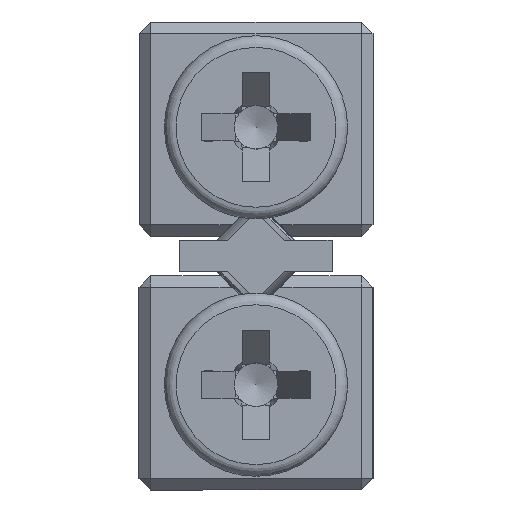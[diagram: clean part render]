
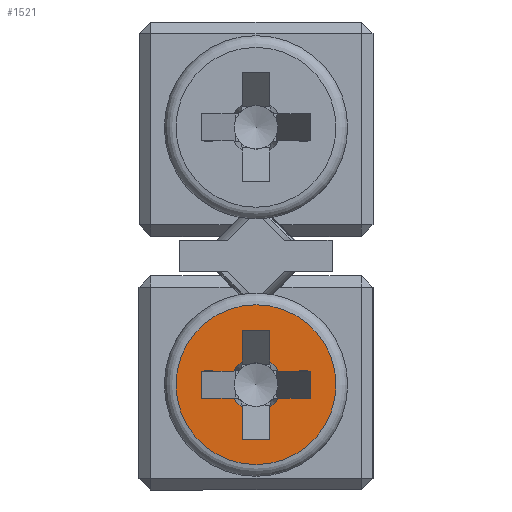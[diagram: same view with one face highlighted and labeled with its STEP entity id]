
A CAD part, left-side view. The second image highlights one B-rep face of the part: STEP entity #1521.
In plain terms, the highlighted planar face has unit normal (-1, 0, 0).
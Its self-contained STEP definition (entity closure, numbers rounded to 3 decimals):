
#145 = PLANE ( 'NONE',  #15974 ) ;
#158 = ORIENTED_EDGE ( 'NONE', *, *, #17880, .F. ) ;
#250 = CARTESIAN_POINT ( 'NONE',  ( -76.5, 0., 2.7 ) ) ;
#584 = CARTESIAN_POINT ( 'NONE',  ( -76.5, 1.4, 2.35 ) ) ;
#730 = EDGE_CURVE ( 'NONE', #17868, #22964, #11448, .T. ) ;
#819 = DIRECTION ( 'NONE',  ( 0., 0., 1. ) ) ;
#893 = VERTEX_POINT ( 'NONE', #19486 ) ;
#996 = DIRECTION ( 'NONE',  ( 0., 0., -1. ) ) ;
#999 = DIRECTION ( 'NONE',  ( -1., 0., 0. ) ) ;
#1054 = CARTESIAN_POINT ( 'NONE',  ( -76.5, 0., 0.65 ) ) ;
#1391 = VECTOR ( 'NONE', #14185, 1000. ) ;
#1521 = ADVANCED_FACE ( 'NONE', ( #4272, #17974 ), #145, .F. ) ;
#1751 = ORIENTED_EDGE ( 'NONE', *, *, #10072, .F. ) ;
#2018 = LINE ( 'NONE', #12633, #10843 ) ;
#2025 = ORIENTED_EDGE ( 'NONE', *, *, #18188, .T. ) ;
#2148 = DIRECTION ( 'NONE',  ( 0., 0., -1. ) ) ;
#2659 = LINE ( 'NONE', #20344, #4184 ) ;
#2673 = DIRECTION ( 'NONE',  ( 0., -1., 0. ) ) ;
#2816 = LINE ( 'NONE', #24349, #9938 ) ;
#3117 = CARTESIAN_POINT ( 'NONE',  ( -76.5, 0.35, 2.119 ) ) ;
#3600 = ORIENTED_EDGE ( 'NONE', *, *, #12573, .T. ) ;
#3763 = DIRECTION ( 'NONE',  ( 0., 0., -1. ) ) ;
#4001 = DIRECTION ( 'NONE',  ( 0., 0., -1. ) ) ;
#4111 = CARTESIAN_POINT ( 'NONE',  ( -76.5, -0.35, 2.119 ) ) ;
#4184 = VECTOR ( 'NONE', #22381, 1000. ) ;
#4272 = FACE_OUTER_BOUND ( 'NONE', #5533, .T. ) ;
#4337 = ORIENTED_EDGE ( 'NONE', *, *, #9826, .F. ) ;
#4650 = CARTESIAN_POINT ( 'NONE',  ( -76.5, -1.4, 2.35 ) ) ;
#4817 = CARTESIAN_POINT ( 'NONE',  ( -76.5, 1.4, 3.05 ) ) ;
#5165 = AXIS2_PLACEMENT_3D ( 'NONE', #14615, #999, #21557 ) ;
#5418 = DIRECTION ( 'NONE',  ( 0., -1., 0. ) ) ;
#5533 = EDGE_LOOP ( 'NONE', ( #14991 ) ) ;
#5567 = CARTESIAN_POINT ( 'NONE',  ( -76.5, -0.35, 4.1 ) ) ;
#5760 = EDGE_CURVE ( 'NONE', #10460, #10460, #13188, .T. ) ;
#6085 = CARTESIAN_POINT ( 'NONE',  ( -76.5, 0.35, 4.1 ) ) ;
#6288 = CARTESIAN_POINT ( 'NONE',  ( -76.5, -0.35, 4.1 ) ) ;
#6311 = ORIENTED_EDGE ( 'NONE', *, *, #13399, .T. ) ;
#6323 = CARTESIAN_POINT ( 'NONE',  ( -76.5, -0.35, 4.1 ) ) ;
#6555 = VECTOR ( 'NONE', #4001, 1000. ) ;
#6894 = LINE ( 'NONE', #7389, #12291 ) ;
#7306 = EDGE_CURVE ( 'NONE', #9328, #22297, #15908, .T. ) ;
#7389 = CARTESIAN_POINT ( 'NONE',  ( -76.5, 0.35, 1.3 ) ) ;
#8104 = DIRECTION ( 'NONE',  ( 0., 0., 1. ) ) ;
#8404 = ORIENTED_EDGE ( 'NONE', *, *, #7306, .F. ) ;
#8994 = EDGE_CURVE ( 'NONE', #893, #23433, #6894, .T. ) ;
#9271 = ORIENTED_EDGE ( 'NONE', *, *, #17099, .F. ) ;
#9328 = VERTEX_POINT ( 'NONE', #16617 ) ;
#9405 = VECTOR ( 'NONE', #2673, 1000. ) ;
#9648 = CARTESIAN_POINT ( 'NONE',  ( -76.5, -0.35, 4.1 ) ) ;
#9765 = CARTESIAN_POINT ( 'NONE',  ( -76.5, 1.4, 3.05 ) ) ;
#9826 = EDGE_CURVE ( 'NONE', #12225, #11922, #24965, .T. ) ;
#9899 = EDGE_CURVE ( 'NONE', #20206, #11922, #21414, .T. ) ;
#9938 = VECTOR ( 'NONE', #12818, 1000. ) ;
#9970 = CARTESIAN_POINT ( 'NONE',  ( -76.5, 1.4, 3.05 ) ) ;
#10072 = EDGE_CURVE ( 'NONE', #13226, #15351, #21931, .T. ) ;
#10268 = CARTESIAN_POINT ( 'NONE',  ( -76.5, 0.35, 3.281 ) ) ;
#10460 = VERTEX_POINT ( 'NONE', #1054 ) ;
#10843 = VECTOR ( 'NONE', #12264, 1000. ) ;
#11077 = VERTEX_POINT ( 'NONE', #4650 ) ;
#11410 = CARTESIAN_POINT ( 'NONE',  ( -76.5, -0.581, 2.35 ) ) ;
#11448 = LINE ( 'NONE', #9648, #6555 ) ;
#11481 = CIRCLE ( 'NONE', #13086, 0.678 ) ;
#11482 = EDGE_LOOP ( 'NONE', ( #158, #24808, #9271, #18492, #15759, #3600, #22708, #18783, #4337, #6311, #1751, #2025, #8404, #19380, #12544, #15530 ) ) ;
#11871 = CARTESIAN_POINT ( 'NONE',  ( -76.5, -1.4, 2.35 ) ) ;
#11922 = VERTEX_POINT ( 'NONE', #24357 ) ;
#12225 = VERTEX_POINT ( 'NONE', #10268 ) ;
#12264 = DIRECTION ( 'NONE',  ( 0., -1., 0. ) ) ;
#12291 = VECTOR ( 'NONE', #17018, 1000. ) ;
#12401 = VECTOR ( 'NONE', #17623, 1000. ) ;
#12544 = ORIENTED_EDGE ( 'NONE', *, *, #12984, .F. ) ;
#12573 = EDGE_CURVE ( 'NONE', #24522, #19206, #2659, .T. ) ;
#12633 = CARTESIAN_POINT ( 'NONE',  ( -76.5, 0.35, 1.3 ) ) ;
#12805 = CARTESIAN_POINT ( 'NONE',  ( -76.5, 0., 2.7 ) ) ;
#12818 = DIRECTION ( 'NONE',  ( 0., 0., 1. ) ) ;
#12851 = EDGE_CURVE ( 'NONE', #11077, #18643, #23643, .T. ) ;
#12984 = EDGE_CURVE ( 'NONE', #11077, #18248, #22092, .T. ) ;
#13086 = AXIS2_PLACEMENT_3D ( 'NONE', #250, #18337, #8104 ) ;
#13188 = CIRCLE ( 'NONE', #23809, 2.05 ) ;
#13226 = VERTEX_POINT ( 'NONE', #5567 ) ;
#13399 = EDGE_CURVE ( 'NONE', #12225, #15351, #2816, .T. ) ;
#13488 = CARTESIAN_POINT ( 'NONE',  ( -76.5, -0.35, 3.281 ) ) ;
#13932 = AXIS2_PLACEMENT_3D ( 'NONE', #14658, #22444, #16701 ) ;
#14172 = CARTESIAN_POINT ( 'NONE',  ( -76.5, 0., 2.7 ) ) ;
#14185 = DIRECTION ( 'NONE',  ( 0., 0., -1. ) ) ;
#14430 = CARTESIAN_POINT ( 'NONE',  ( -76.5, -1.4, 2.35 ) ) ;
#14615 = CARTESIAN_POINT ( 'NONE',  ( -76.5, 0., 2.7 ) ) ;
#14658 = CARTESIAN_POINT ( 'NONE',  ( -76.5, 0., 2.7 ) ) ;
#14673 = AXIS2_PLACEMENT_3D ( 'NONE', #14172, #24284, #21967 ) ;
#14740 = VECTOR ( 'NONE', #2148, 1000. ) ;
#14991 = ORIENTED_EDGE ( 'NONE', *, *, #5760, .T. ) ;
#15351 = VERTEX_POINT ( 'NONE', #6085 ) ;
#15530 = ORIENTED_EDGE ( 'NONE', *, *, #12851, .T. ) ;
#15759 = ORIENTED_EDGE ( 'NONE', *, *, #23773, .F. ) ;
#15908 = CIRCLE ( 'NONE', #14673, 0.678 ) ;
#15974 = AXIS2_PLACEMENT_3D ( 'NONE', #23492, #17471, #3763 ) ;
#16617 = CARTESIAN_POINT ( 'NONE',  ( -76.5, -0.581, 3.05 ) ) ;
#16701 = DIRECTION ( 'NONE',  ( 0., 0., 1. ) ) ;
#16763 = CARTESIAN_POINT ( 'NONE',  ( -76.5, 1.4, 3.05 ) ) ;
#17018 = DIRECTION ( 'NONE',  ( 0., 0., 1. ) ) ;
#17099 = EDGE_CURVE ( 'NONE', #893, #22964, #2018, .T. ) ;
#17210 = EDGE_CURVE ( 'NONE', #20206, #19206, #23920, .T. ) ;
#17351 = CARTESIAN_POINT ( 'NONE',  ( -76.5, 0.581, 2.35 ) ) ;
#17471 = DIRECTION ( 'NONE',  ( 1., 0., 0. ) ) ;
#17623 = DIRECTION ( 'NONE',  ( 0., 1., 0. ) ) ;
#17868 = VERTEX_POINT ( 'NONE', #4111 ) ;
#17880 = EDGE_CURVE ( 'NONE', #17868, #18643, #11481, .T. ) ;
#17974 = FACE_BOUND ( 'NONE', #11482, .T. ) ;
#18188 = EDGE_CURVE ( 'NONE', #13226, #22297, #22138, .T. ) ;
#18248 = VERTEX_POINT ( 'NONE', #20097 ) ;
#18311 = EDGE_CURVE ( 'NONE', #9328, #18248, #22508, .T. ) ;
#18337 = DIRECTION ( 'NONE',  ( -1., 0., 0. ) ) ;
#18492 = ORIENTED_EDGE ( 'NONE', *, *, #8994, .T. ) ;
#18643 = VERTEX_POINT ( 'NONE', #11410 ) ;
#18783 = ORIENTED_EDGE ( 'NONE', *, *, #9899, .T. ) ;
#19206 = VERTEX_POINT ( 'NONE', #584 ) ;
#19257 = VECTOR ( 'NONE', #5418, 1000. ) ;
#19380 = ORIENTED_EDGE ( 'NONE', *, *, #18311, .T. ) ;
#19486 = CARTESIAN_POINT ( 'NONE',  ( -76.5, 0.35, 1.3 ) ) ;
#19886 = DIRECTION ( 'NONE',  ( 0., 1., 0. ) ) ;
#20083 = VECTOR ( 'NONE', #19886, 1000. ) ;
#20097 = CARTESIAN_POINT ( 'NONE',  ( -76.5, -1.4, 3.05 ) ) ;
#20206 = VERTEX_POINT ( 'NONE', #9970 ) ;
#20241 = DIRECTION ( 'NONE',  ( -1., 0., 0. ) ) ;
#20344 = CARTESIAN_POINT ( 'NONE',  ( -76.5, -1.4, 2.35 ) ) ;
#21414 = LINE ( 'NONE', #9765, #19257 ) ;
#21557 = DIRECTION ( 'NONE',  ( 0., 0., 1. ) ) ;
#21785 = VECTOR ( 'NONE', #819, 1000. ) ;
#21931 = LINE ( 'NONE', #6323, #20083 ) ;
#21967 = DIRECTION ( 'NONE',  ( 0., 0., 1. ) ) ;
#22092 = LINE ( 'NONE', #14430, #21785 ) ;
#22138 = LINE ( 'NONE', #6288, #14740 ) ;
#22297 = VERTEX_POINT ( 'NONE', #13488 ) ;
#22381 = DIRECTION ( 'NONE',  ( 0., 1., 0. ) ) ;
#22444 = DIRECTION ( 'NONE',  ( -1., 0., 0. ) ) ;
#22508 = LINE ( 'NONE', #16763, #9405 ) ;
#22708 = ORIENTED_EDGE ( 'NONE', *, *, #17210, .F. ) ;
#22964 = VERTEX_POINT ( 'NONE', #24712 ) ;
#23433 = VERTEX_POINT ( 'NONE', #3117 ) ;
#23492 = CARTESIAN_POINT ( 'NONE',  ( -76.5, 2.35, 2.7 ) ) ;
#23643 = LINE ( 'NONE', #11871, #12401 ) ;
#23773 = EDGE_CURVE ( 'NONE', #24522, #23433, #24389, .T. ) ;
#23809 = AXIS2_PLACEMENT_3D ( 'NONE', #12805, #20241, #996 ) ;
#23920 = LINE ( 'NONE', #4817, #1391 ) ;
#24284 = DIRECTION ( 'NONE',  ( -1., 0., 0. ) ) ;
#24349 = CARTESIAN_POINT ( 'NONE',  ( -76.5, 0.35, 1.3 ) ) ;
#24357 = CARTESIAN_POINT ( 'NONE',  ( -76.5, 0.581, 3.05 ) ) ;
#24389 = CIRCLE ( 'NONE', #5165, 0.678 ) ;
#24522 = VERTEX_POINT ( 'NONE', #17351 ) ;
#24712 = CARTESIAN_POINT ( 'NONE',  ( -76.5, -0.35, 1.3 ) ) ;
#24808 = ORIENTED_EDGE ( 'NONE', *, *, #730, .T. ) ;
#24965 = CIRCLE ( 'NONE', #13932, 0.678 ) ;
